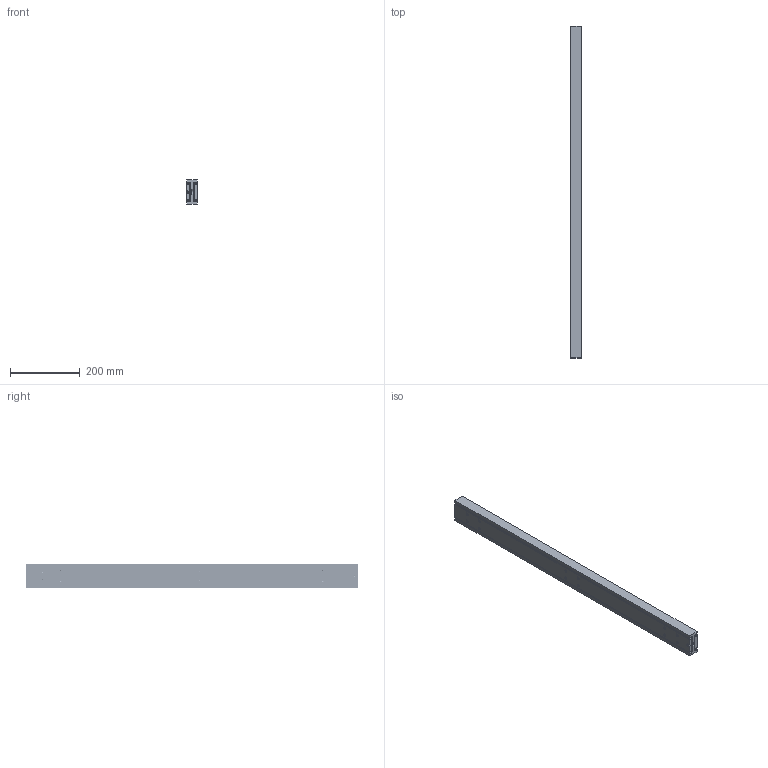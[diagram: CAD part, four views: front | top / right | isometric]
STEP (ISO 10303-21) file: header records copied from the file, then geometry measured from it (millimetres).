
FILE_DESCRIPTION(/* description */ (''),/* implementation_level */ '2;1');
FILE_NAME(/* name */ 'D:\Zeichnungen Schienen Komplett\MX-DTP70\MX-DTP70.095\MX-DTP70.095_eingefahren.step',/* time_stamp */ '2022-08-30T09:47:37+02:00',/* author */ ('zmile'),/* organization */ (''),/* preprocessor_version */ 'ST-DEVELOPER v16.13',/* originating_system */ 'AutoCAD Mechanical',/* authorisation */ '');
FILE_SCHEMA (('AUTOMOTIVE_DESIGN { 1 0 10303 214 3 1 1 }'));
Products named in the file (1): Product
Bounding box: 32 x 950 x 70 mm (x, y, z)
Volume: 1682440.9 mm3; surface area: 600282 mm2
Topology: 67 solids, 67 shells, 338 faces, 952 edges, 632 vertices
Faces by surface type: cylinder 100, plane 86, bspline 86, sphere 60, torus 6
Full cylindrical faces by diameter (mm): 9 x60, 13 x2
Entity records: 192936 total; most frequent: CARTESIAN_POINT 185190, ORIENTED_EDGE 1524, DIRECTION 1262, EDGE_CURVE 762, VERTEX_POINT 630, EDGE_LOOP 582, AXIS2_PLACEMENT_3D 525, FACE_OUTER_BOUND 338
